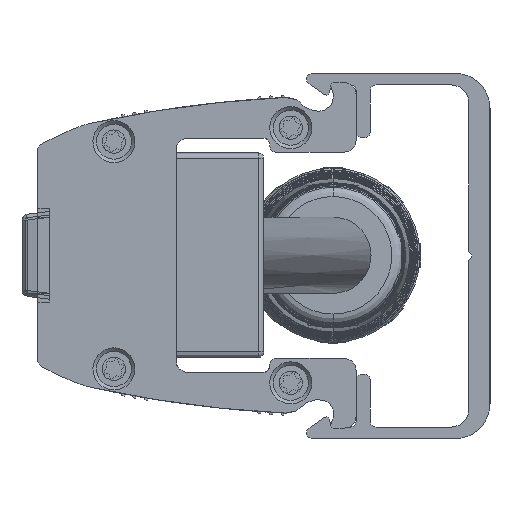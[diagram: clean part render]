
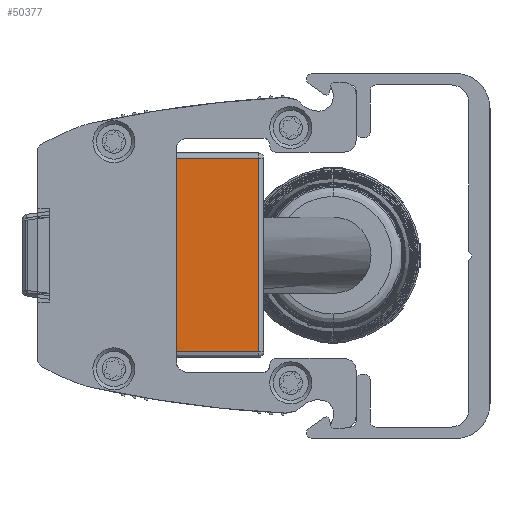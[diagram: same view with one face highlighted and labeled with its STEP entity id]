
A CAD part, left-side view. The second image highlights one B-rep face of the part: STEP entity #50377.
In plain terms, the highlighted planar face has unit normal (-1, 0, 0).
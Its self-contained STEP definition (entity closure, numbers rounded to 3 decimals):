
#1365 = VECTOR ( 'NONE', #45213, 1000. ) ;
#7658 = VECTOR ( 'NONE', #82035, 1000. ) ;
#15331 = EDGE_CURVE ( 'NONE', #109345, #134805, #37636, .T. ) ;
#25297 = ORIENTED_EDGE ( 'NONE', *, *, #102094, .T. ) ;
#26776 = VERTEX_POINT ( 'NONE', #120325 ) ;
#30436 = EDGE_LOOP ( 'NONE', ( #25297, #76639, #129100, #150718 ) ) ;
#33618 = EDGE_CURVE ( 'NONE', #134805, #26776, #104434, .T. ) ;
#34670 = CARTESIAN_POINT ( 'NONE',  ( -499.5, 0., -8.25 ) ) ;
#37636 = LINE ( 'NONE', #94045, #38089 ) ;
#38089 = VECTOR ( 'NONE', #61544, 1000. ) ;
#44985 = CARTESIAN_POINT ( 'NONE',  ( -499.5, -7., -8.25 ) ) ;
#45213 = DIRECTION ( 'NONE',  ( 0., 0., -1. ) ) ;
#50377 = ADVANCED_FACE ( 'NONE', ( #68916 ), #137642, .F. ) ;
#61544 = DIRECTION ( 'NONE',  ( 0., 0., 1. ) ) ;
#68916 = FACE_OUTER_BOUND ( 'NONE', #30436, .T. ) ;
#71419 = CARTESIAN_POINT ( 'NONE',  ( -499.5, 0., -8.75 ) ) ;
#71947 = VERTEX_POINT ( 'NONE', #34670 ) ;
#76639 = ORIENTED_EDGE ( 'NONE', *, *, #100562, .T. ) ;
#78984 = CARTESIAN_POINT ( 'NONE',  ( -499.5, -7.5, -8.75 ) ) ;
#82035 = DIRECTION ( 'NONE',  ( 0., 1., 0. ) ) ;
#94045 = CARTESIAN_POINT ( 'NONE',  ( -499.5, -7., 8.75 ) ) ;
#97233 = CARTESIAN_POINT ( 'NONE',  ( -499.5, -7.5, -8.25 ) ) ;
#100562 = EDGE_CURVE ( 'NONE', #71947, #109345, #145108, .T. ) ;
#102094 = EDGE_CURVE ( 'NONE', #26776, #71947, #152499, .T. ) ;
#104434 = LINE ( 'NONE', #151523, #7658 ) ;
#109345 = VERTEX_POINT ( 'NONE', #44985 ) ;
#120325 = CARTESIAN_POINT ( 'NONE',  ( -499.5, 0., 8.25 ) ) ;
#124163 = AXIS2_PLACEMENT_3D ( 'NONE', #78984, #132114, #131355 ) ;
#129100 = ORIENTED_EDGE ( 'NONE', *, *, #15331, .T. ) ;
#131355 = DIRECTION ( 'NONE',  ( 0., 0., -1. ) ) ;
#131999 = DIRECTION ( 'NONE',  ( 0., -1., 0. ) ) ;
#132114 = DIRECTION ( 'NONE',  ( 1., 0., 0. ) ) ;
#134805 = VERTEX_POINT ( 'NONE', #149382 ) ;
#137642 = PLANE ( 'NONE',  #124163 ) ;
#143899 = VECTOR ( 'NONE', #131999, 1000. ) ;
#145108 = LINE ( 'NONE', #97233, #143899 ) ;
#149382 = CARTESIAN_POINT ( 'NONE',  ( -499.5, -7., 8.25 ) ) ;
#150718 = ORIENTED_EDGE ( 'NONE', *, *, #33618, .T. ) ;
#151523 = CARTESIAN_POINT ( 'NONE',  ( -499.5, -7.5, 8.25 ) ) ;
#152499 = LINE ( 'NONE', #71419, #1365 ) ;
